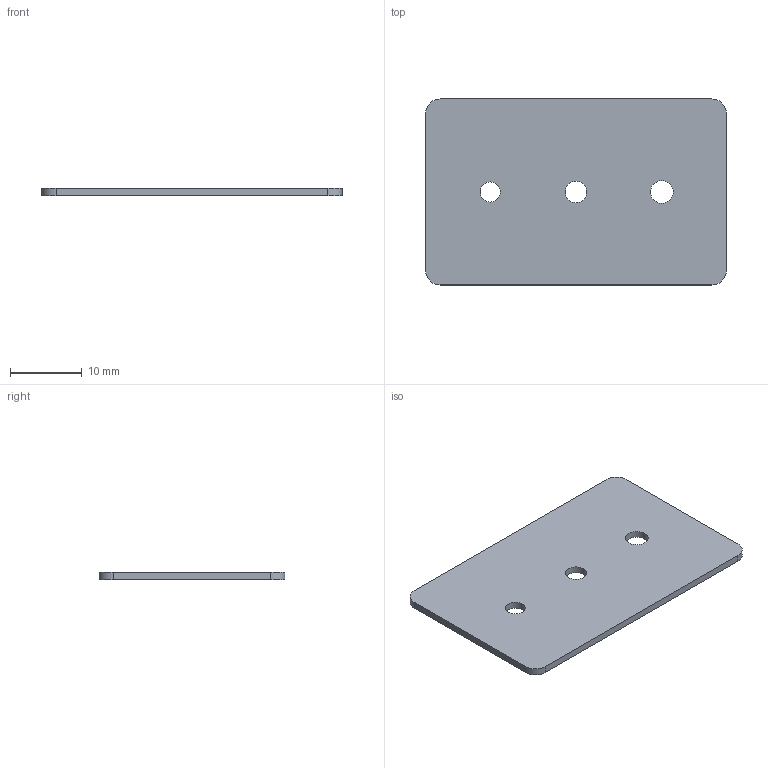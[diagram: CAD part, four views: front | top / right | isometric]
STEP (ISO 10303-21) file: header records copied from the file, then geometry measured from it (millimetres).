
FILE_DESCRIPTION(('Open CASCADE Model'),'2;1');
FILE_NAME('Open CASCADE Shape Model','2026-09-08T11:16:16',('Author'),( 'Open CASCADE'),'Open CASCADE STEP processor 7.7','Open CASCADE 7.7' ,'Unknown');
FILE_SCHEMA(('AUTOMOTIVE_DESIGN { 1 0 10303 214 1 1 1 1 }'));
Length unit declared in the file: millimetre
Products named in the file (1): Open CASCADE STEP translator 7.7 1
Bounding box: 42 x 26 x 1 mm (x, y, z)
Volume: 1067.3 mm3; surface area: 2295.4 mm2
Topology: 1 solids, 1 shells, 13 faces, 33 edges, 22 vertices
Faces by surface type: cylinder 7, plane 6
Full cylindrical faces by diameter (mm): 2.8 x1, 3 x1, 3.2 x1
Entity records: 882 total; most frequent: CARTESIAN_POINT 195, DIRECTION 131, LINE 71, VECTOR 71, ORIENTED_EDGE 66, PCURVE 66, DEFINITIONAL_REPRESENTATION 66, EDGE_CURVE 33
